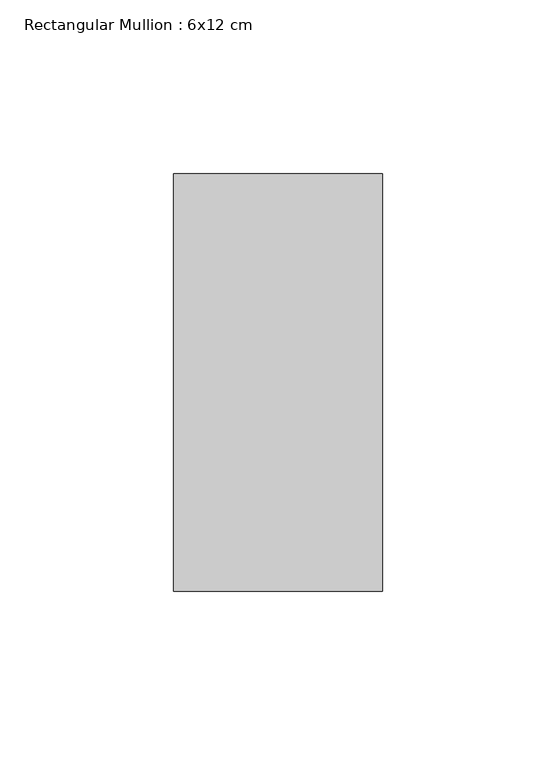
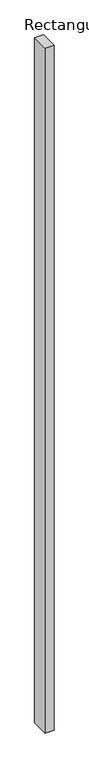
"""IFC4 building model written with IfcOpenShell, lengths in millimetres: member geometry, Rectangular Mullion : 6x12 cm."""

from ifc_helpers import new_model, si_unit, frame, origin, place, context, project, spatial, polyline, outline, extrude, source, transform, mapped, element, save


def rectangular_mullion_6x12_cm_c64a50f1(model_context):
    return source(origin(), model_context, "Body", "SweptSolid", [
        extrude(outline(polyline([(30.0, 205.0), (30.0, 85.0), (-30.0, 85.0), (-30.0, 205.0), (30.0, 205.0)])), frame((0.0, 0.0, -4846.5086258), z_axis=(0.0, 0.0, 1.0), x_axis=(1.0, 0.0, 0.0)), (0.0, 0.0, 1.0), 4846.5086258),
    ])


if __name__ == "__main__":
    model = new_model("IFC4")
    model_context = context("Model", 3, world=origin())
    ifc_project = project(units=[si_unit("LENGTHUNIT", "METRE", prefix="MILLI")], contexts=[model_context])
    site = spatial("IfcSite", under=ifc_project)
    building = spatial("IfcBuilding", under=site)
    placement = place(None, origin())
    rectangular_mullion_6x12_cm_shape = rectangular_mullion_6x12_cm_c64a50f1(model_context)
    element("IfcMember", 1, ObjectType="Rectangular Mullion : 6x12 cm", at=placement, inside=building, context=model_context, shape_type="MappedRepresentation", body=[
        mapped(rectangular_mullion_6x12_cm_shape, transform((0.0, 0.0, 0.0), x_axis=(1.0, 0.0, 0.0), y_axis=(0.0, 1.0, 0.0), z_axis=(0.0, 0.0, 1.0))),
    ])
    save(model, "model.ifc")
